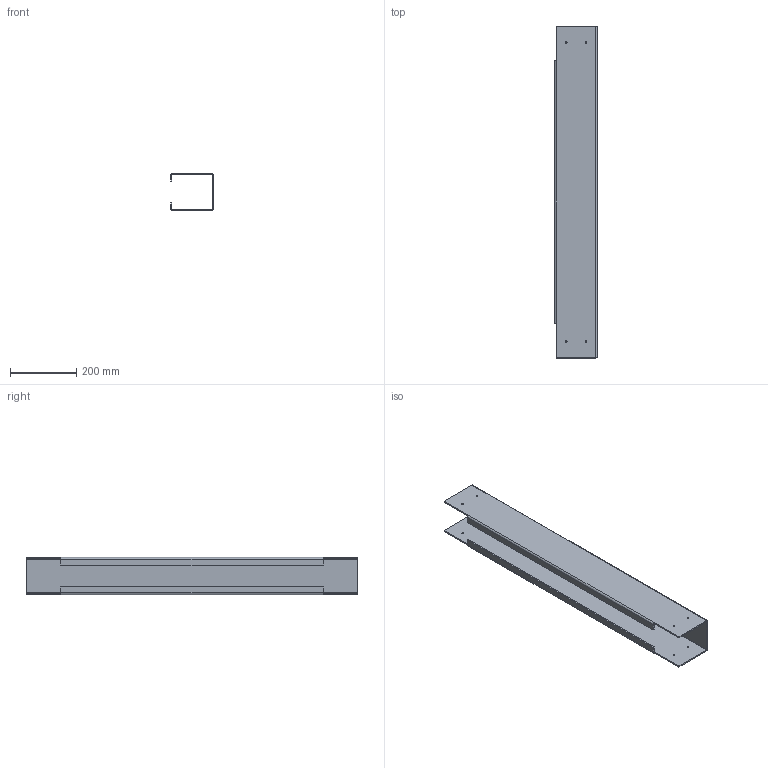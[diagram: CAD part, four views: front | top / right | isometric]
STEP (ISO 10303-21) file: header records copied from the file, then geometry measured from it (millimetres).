
FILE_DESCRIPTION(('HOOPS Exchange Step'),'2;1');
FILE_NAME('/private/var/mobile/Containers/Data/Application/E4481369-A8C6-45C6-A958-B1853E49479D/tmp/export/temp_export','2021-04-12T21:02:31+00:00',('mobile'),('Shapr3D Limited'),'HOOPS Exchange 2020.2','Shapr3D','Authorized');
FILE_SCHEMA( ('AP203_CONFIGURATION_CONTROLLED_3D_DESIGN_OF_MECHANICAL_PARTS_AND_ASSEMBLIES_MIM_LF') );
Length unit declared in the file: millimetre
Products named in the file (2): 0; /private/var/mobile/Containers/Data/Application/E4481369-A8C6-45C6-A958-B1853E49479D/tmp/B6C78482-CE57-4C5A-B42C-977B2B78724A.tmp
Assembly tree (1 placements, depth 2):
  /private/var/mobile/Containers/Data/Application/E4481369-A8C6-45C6-A958-B1853E49479D/tmp/B6C78482-CE57-4C5A-B42C-977B2B78724A.tmp
    0
Bounding box: 129 x 1000 x 112 mm (x, y, z)
Volume: 1547254.4 mm3; surface area: 785311 mm2
Topology: 1 solids, 1 shells, 46 faces, 132 edges, 88 vertices
Faces by surface type: cylinder 24, plane 22
Full cylindrical faces by diameter (mm): 5.2 x8
Entity records: 1611 total; most frequent: DIRECTION 286, CARTESIAN_POINT 269, ORIENTED_EDGE 264, EDGE_CURVE 132, AXIS2_PLACEMENT_3D 105, VERTEX_POINT 88, VECTOR 76, LINE 76
